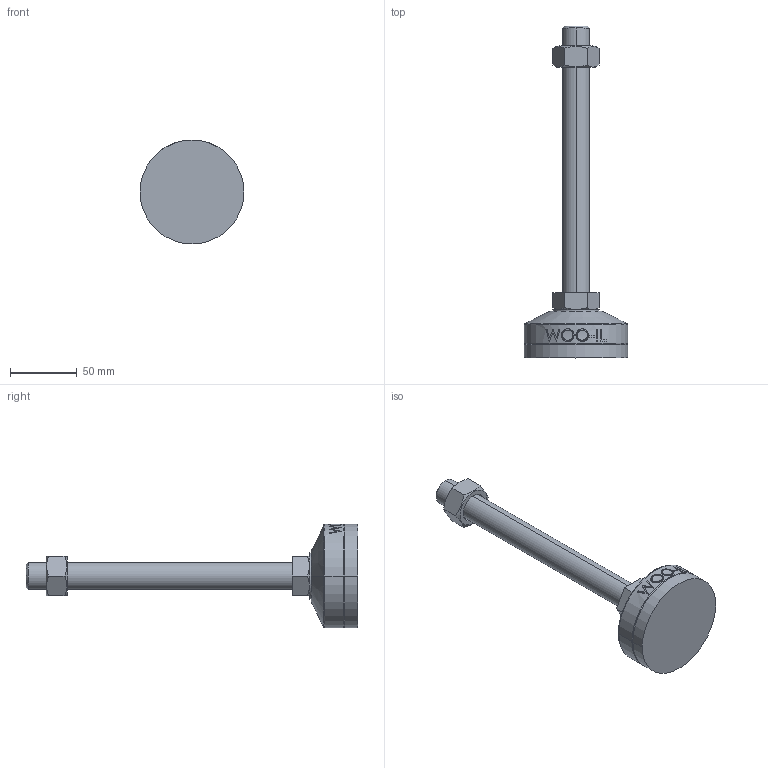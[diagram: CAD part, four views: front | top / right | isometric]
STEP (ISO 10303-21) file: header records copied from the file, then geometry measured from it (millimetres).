
FILE_DESCRIPTION (( 'STEP AP214' ), '1' );
FILE_NAME ('MFZR78-M20-200.step', '2021-03-29T06:58:46', ( '' ), ( '' ), 'SwSTEP 2.0', 'SolidWorks 2019', '' );
FILE_SCHEMA (( 'AUTOMOTIVE_DESIGN' ));
Length unit declared in the file: millimetre
Products named in the file (2): MFZR78-M20-200
Bounding box: 78 x 249 x 78 mm (x, y, z)
Volume: 229268.8 mm3; surface area: 35450.5 mm2
Topology: 3 solids, 3 shells, 102 faces, 239 edges, 154 vertices
Faces by surface type: plane 48, cylinder 18, bspline 16, cone 14, torus 6
Entity records: 4524 total; most frequent: CARTESIAN_POINT 2249, ORIENTED_EDGE 478, DIRECTION 415, EDGE_CURVE 239, AXIS2_PLACEMENT_3D 158, VERTEX_POINT 154, EDGE_LOOP 115, ADVANCED_FACE 102
